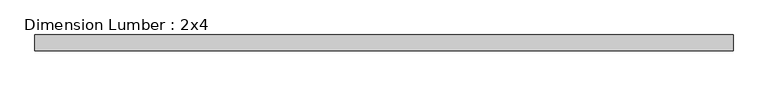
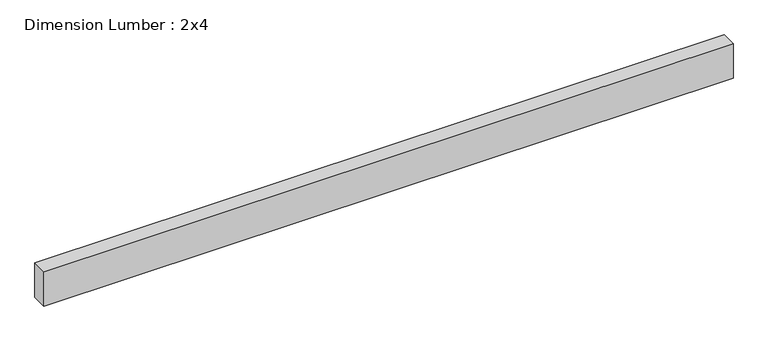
"""IFC4 building model written with IfcOpenShell, lengths in millimetres: beam geometry, Dimension Lumber : 2x4."""

from ifc_helpers import new_model, si_unit, frame, origin, place, context, project, spatial, polyline, outline, extrude, source, transform, mapped, element, save


def dimension_lumber_2x4_f46463fc(model_context):
    return source(origin(), model_context, "Body", "SweptSolid", [
        extrude(outline(polyline([(840.0520833, 19.05), (840.0520833, -19.05), (-840.0520833, -19.05), (-840.0520833, 19.05), (840.0520833, 19.05)])), frame((0.0, 0.0, -44.45), z_axis=(0.0, 0.0, 1.0), x_axis=(1.0, 0.0, 0.0)), (0.0, 0.0, 1.0), 88.9),
    ])


if __name__ == "__main__":
    model = new_model("IFC4")
    model_context = context("Model", 3, world=origin())
    ifc_project = project(units=[si_unit("LENGTHUNIT", "METRE", prefix="MILLI")], contexts=[model_context])
    site = spatial("IfcSite", under=ifc_project)
    building = spatial("IfcBuilding", under=site)
    placement = place(None, origin())
    dimension_lumber_2x4_shape = dimension_lumber_2x4_f46463fc(model_context)
    element("IfcBeam", 1, ObjectType="Dimension Lumber : 2x4", at=placement, inside=building, context=model_context, shape_type="MappedRepresentation", body=[
        mapped(dimension_lumber_2x4_shape, transform((0.0, 0.0, 0.0), x_axis=(1.0, 0.0, 0.0), y_axis=(0.0, 1.0, 0.0), z_axis=(0.0, 0.0, 1.0))),
    ])
    save(model, "model.ifc")
